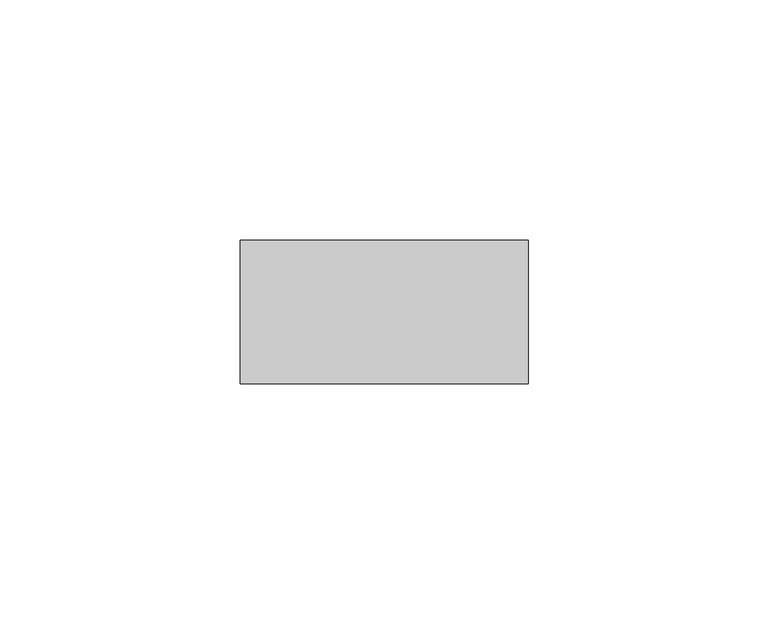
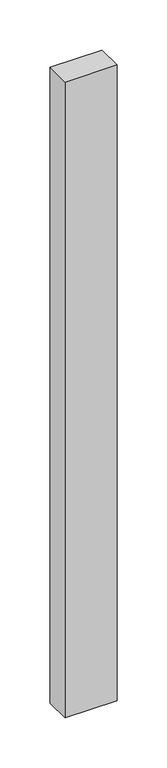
"""IFC4 building model written with IfcOpenShell, lengths in millimetres: member geometry, Прямоугольный импост : Квадрат 30 мм."""

from ifc_helpers import new_model, si_unit, frame, origin, place, context, project, spatial, polyline, outline, extrude, source, transform, mapped, element, save


def member_e9a7b63a(model_context):
    return source(origin(), model_context, "Body", "SweptSolid", [
        extrude(outline(polyline([(30.0, 15.0), (30.0, -15.0), (-30.0, -15.0), (-30.0, 15.0), (30.0, 15.0)])), frame((0.0, 0.0, -775.0), z_axis=(0.0, 0.0, 1.0), x_axis=(1.0, 0.0, 0.0)), (0.0, 0.0, 1.0), 775.0),
    ])


if __name__ == "__main__":
    model = new_model("IFC4")
    model_context = context("Model", 3, world=origin())
    ifc_project = project(units=[si_unit("LENGTHUNIT", "METRE", prefix="MILLI")], contexts=[model_context])
    site = spatial("IfcSite", under=ifc_project)
    building = spatial("IfcBuilding", under=site)
    placement = place(None, origin())
    member_shape = member_e9a7b63a(model_context)
    element("IfcMember", 1, ObjectType="Прямоугольный импост : Квадрат 30 мм", at=placement, inside=building, context=model_context, shape_type="MappedRepresentation", body=[
        mapped(member_shape, transform((0.0, 0.0, 0.0), x_axis=(1.0, 0.0, 0.0), y_axis=(0.0, 1.0, 0.0), z_axis=(0.0, 0.0, 1.0))),
    ])
    save(model, "model.ifc")
